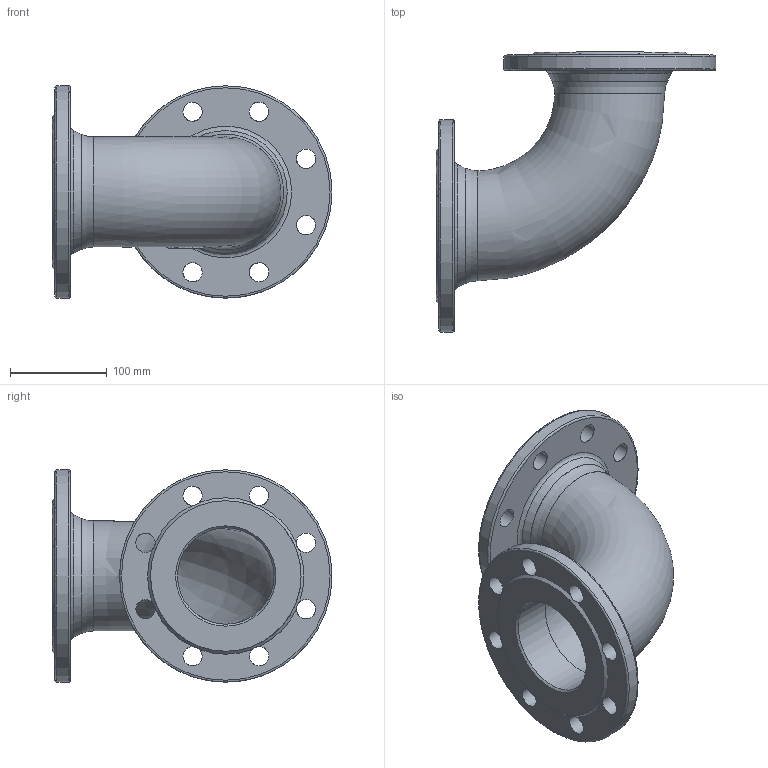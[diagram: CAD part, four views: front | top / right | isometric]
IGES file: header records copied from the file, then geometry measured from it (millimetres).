
Start section: SolidWorks IGES file using analytic representation for surfaces
Global section: file name: \\avksan2\techshare\PBM outline export from Enovia\O_712_0610_DN100_1X_REV01.igs; native system: SolidWorks 2019; preprocessor: SolidWorks 2019; author: pbm; date: 211119.105326; units: millimetre
Bounding box: 290 x 290 x 220 mm (x, y, z)
Surface area: 326664.8 mm2 (no closed solid volume)
Topology: 0 solids, 0 shells, 83 faces, 458 edges, 422 vertices
Faces by surface type: bspline 43, revolution 40
